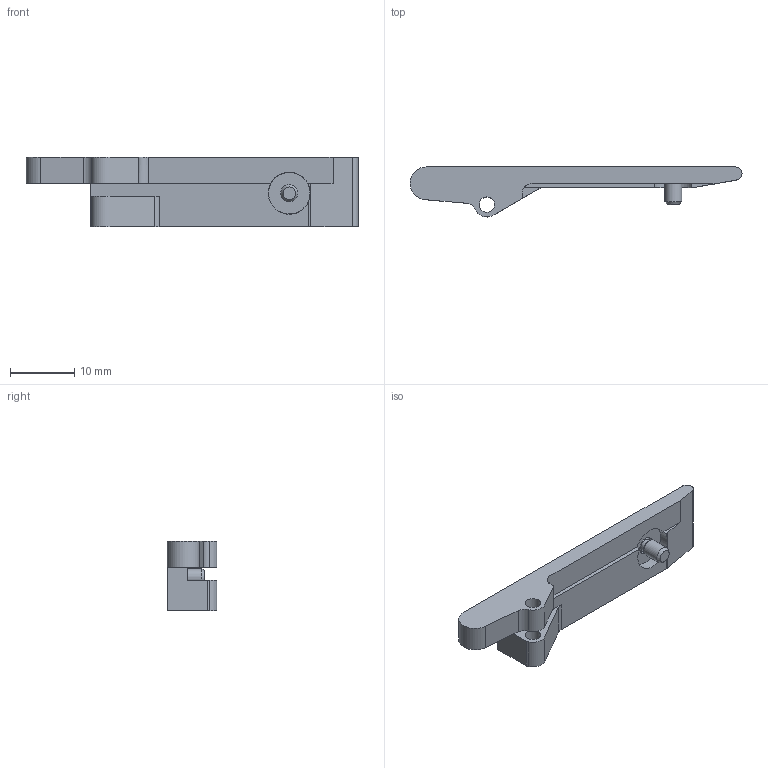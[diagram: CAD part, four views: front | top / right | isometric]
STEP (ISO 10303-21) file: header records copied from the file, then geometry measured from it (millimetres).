
FILE_DESCRIPTION (( 'STEP AP214' ), '1' );
FILE_NAME ('82793-L-F (702K-1).STEP', '2020-01-22T15:49:47', ( '' ), ( '' ), 'SwSTEP 2.0', 'SolidWorks 2016', '' );
FILE_SCHEMA (( 'AUTOMOTIVE_DESIGN' ));
Length unit declared in the file: inch
Products named in the file (1): 82793-L-F (702K-1)
Bounding box: 51.56 x 7.75 x 10.79 mm (x, y, z)
Volume: 1670.4 mm3; surface area: 1770.7 mm2
Topology: 3 solids, 3 shells, 54 faces, 135 edges, 89 vertices
Faces by surface type: plane 24, cylinder 21, cone 6, torus 3
Full cylindrical faces by diameter (mm): 1.905 x1, 2.381 x2, 2.603 x1, 2.692 x1, 3.962 x1, 4.572 x1, 5.944 x1, 6.452 x1, 6.528 x1, 7.137 x1
Entity records: 1566 total; most frequent: CARTESIAN_POINT 286, DIRECTION 264, ORIENTED_EDGE 216, EDGE_CURVE 108, AXIS2_PLACEMENT_3D 106, EDGE_LOOP 82, VERTEX_POINT 80, FACE_OUTER_BOUND 68
